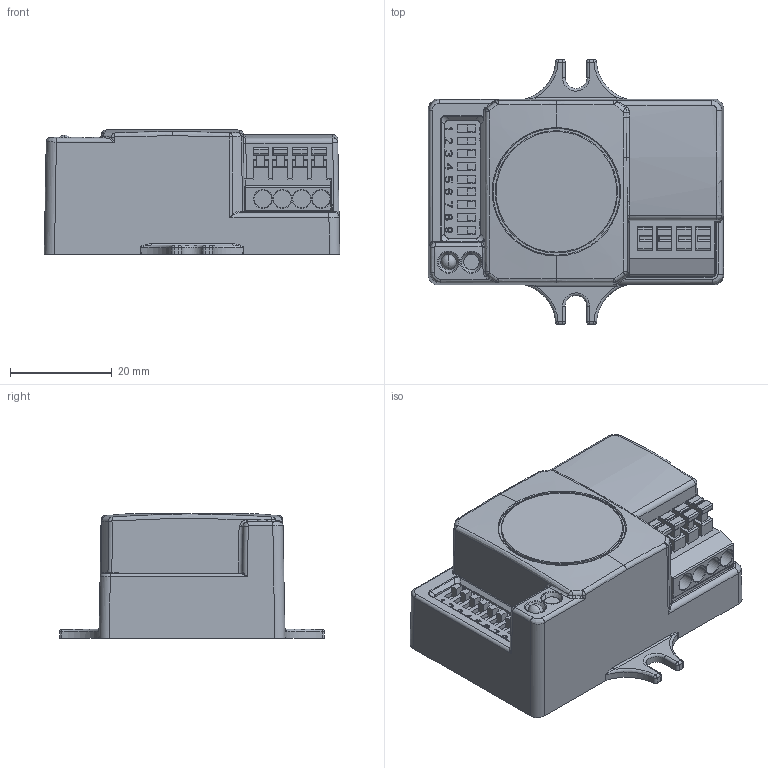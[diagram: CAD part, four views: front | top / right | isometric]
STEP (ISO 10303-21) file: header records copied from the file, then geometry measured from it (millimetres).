
FILE_DESCRIPTION((''),'2;1');
FILE_NAME('15015356Z_DMEC_58X52X24-5_B','2022-12-22T13:54:51',('Juergen.Hrach'),(''),'CREO PARAMETRIC BY PTC INC, 2021184','CREO PARAMETRIC BY PTC INC, 2021184','');
FILE_SCHEMA(('CONFIG_CONTROL_DESIGN'));
Length unit declared in the file: millimetre
Products named in the file (1): 15015356Z_DMEC_58X52X24-5_B
Bounding box: 58 x 52 x 24.5 mm (x, y, z)
Volume: 32105.9 mm3; surface area: 25325.5 mm2
Topology: 4 solids, 5 shells, 1213 faces, 3275 edges, 2109 vertices
Faces by surface type: plane 833, cylinder 220, bspline 76, torus 43, cone 26, sphere 15
Entity records: 42127 total; most frequent: CARTESIAN_POINT 12432, ORIENTED_EDGE 6520, DIRECTION 5566, EDGE_CURVE 3260, VECTOR 2486, LINE 2486, VERTEX_POINT 2109, AXIS2_PLACEMENT_3D 1540
